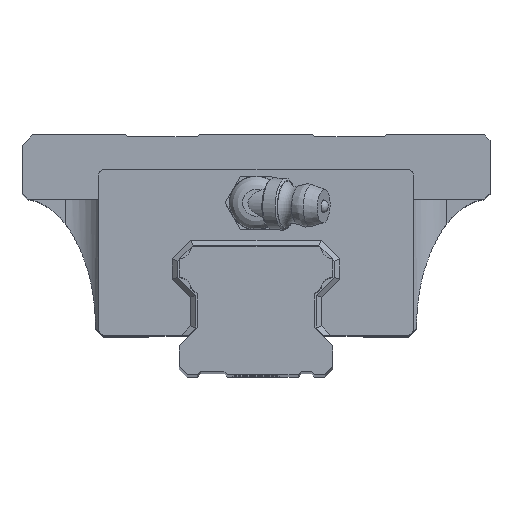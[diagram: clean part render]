
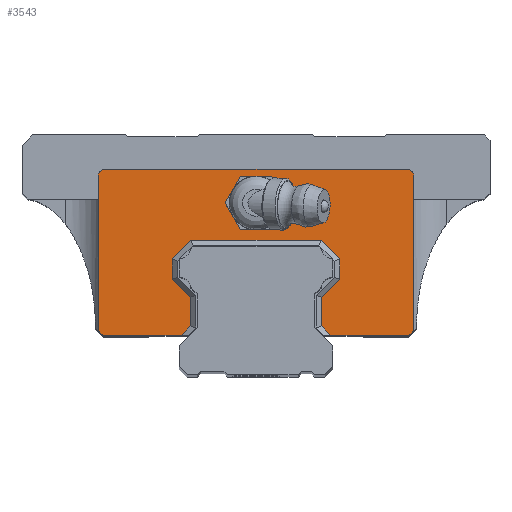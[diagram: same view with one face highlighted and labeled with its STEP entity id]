
A CAD part, top view. The second image highlights one B-rep face of the part: STEP entity #3543.
In plain terms, the highlighted planar face has unit normal (0, 0, 1).
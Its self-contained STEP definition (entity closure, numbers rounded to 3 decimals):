
#2167=CARTESIAN_POINT('',(2427.521,-4013.261,-50661.656));
#2168=VERTEX_POINT('',#2167);
#2176=CARTESIAN_POINT('',(2428.935,-4011.846,-50661.656));
#2177=VERTEX_POINT('',#2176);
#2184=CARTESIAN_POINT('',(2428.935,-4011.846,-50661.656));
#2185=DIRECTION('',(-0.707,-0.707,0.0));
#2186=VECTOR('',#2185,2.);
#2187=LINE('',#2184,#2186);
#2188=EDGE_CURVE('',#2177,#2168,#2187,.T.);
#2200=CARTESIAN_POINT('',(2428.935,-4007.595,-50661.656));
#2201=VERTEX_POINT('',#2200);
#2208=CARTESIAN_POINT('',(2428.935,-4007.595,-50661.656));
#2209=DIRECTION('',(0.,-1.0,0.0));
#2210=VECTOR('',#2209,4.251);
#2211=LINE('',#2208,#2210);
#2212=EDGE_CURVE('',#2201,#2177,#2211,.T.);
#2224=CARTESIAN_POINT('',(2426.235,-4004.895,-50661.656));
#2225=VERTEX_POINT('',#2224);
#2232=CARTESIAN_POINT('',(2426.235,-4004.895,-50661.656));
#2233=DIRECTION('',(0.707,-0.707,0.0));
#2234=VECTOR('',#2233,3.819);
#2235=LINE('',#2232,#2234);
#2236=EDGE_CURVE('',#2225,#2201,#2235,.T.);
#2248=CARTESIAN_POINT('',(2426.235,-4001.823,-50661.656));
#2249=VERTEX_POINT('',#2248);
#2256=CARTESIAN_POINT('',(2426.235,-4001.823,-50661.656));
#2257=DIRECTION('',(0.0,-1.0,0.0));
#2258=VECTOR('',#2257,3.071);
#2259=LINE('',#2256,#2258);
#2260=EDGE_CURVE('',#2249,#2225,#2259,.T.);
#2272=CARTESIAN_POINT('',(2428.998,-3999.061,-50661.656));
#2273=VERTEX_POINT('',#2272);
#2280=CARTESIAN_POINT('',(2428.998,-3999.061,-50661.656));
#2281=DIRECTION('',(-0.707,-0.707,0.0));
#2282=VECTOR('',#2281,3.907);
#2283=LINE('',#2280,#2282);
#2284=EDGE_CURVE('',#2273,#2249,#2283,.T.);
#2296=CARTESIAN_POINT('',(2448.473,-3999.061,-50661.656));
#2297=VERTEX_POINT('',#2296);
#2304=CARTESIAN_POINT('',(2448.473,-3999.061,-50661.656));
#2305=DIRECTION('',(-1.0,0.0,0.0));
#2306=VECTOR('',#2305,19.475);
#2307=LINE('',#2304,#2306);
#2308=EDGE_CURVE('',#2297,#2273,#2307,.T.);
#2320=CARTESIAN_POINT('',(2451.236,-4001.823,-50661.656));
#2321=VERTEX_POINT('',#2320);
#2328=CARTESIAN_POINT('',(2451.236,-4001.823,-50661.656));
#2329=DIRECTION('',(-0.707,0.707,0.0));
#2330=VECTOR('',#2329,3.907);
#2331=LINE('',#2328,#2330);
#2332=EDGE_CURVE('',#2321,#2297,#2331,.T.);
#2344=CARTESIAN_POINT('',(2451.236,-4004.895,-50661.656));
#2345=VERTEX_POINT('',#2344);
#2352=CARTESIAN_POINT('',(2451.236,-4004.895,-50661.656));
#2353=DIRECTION('',(0.,1.0,0.0));
#2354=VECTOR('',#2353,3.071);
#2355=LINE('',#2352,#2354);
#2356=EDGE_CURVE('',#2345,#2321,#2355,.T.);
#2368=CARTESIAN_POINT('',(2448.535,-4007.595,-50661.656));
#2369=VERTEX_POINT('',#2368);
#2376=CARTESIAN_POINT('',(2448.535,-4007.595,-50661.656));
#2377=DIRECTION('',(0.707,0.707,0.0));
#2378=VECTOR('',#2377,3.819);
#2379=LINE('',#2376,#2378);
#2380=EDGE_CURVE('',#2369,#2345,#2379,.T.);
#2392=CARTESIAN_POINT('',(2448.535,-4011.846,-50661.656));
#2393=VERTEX_POINT('',#2392);
#2400=CARTESIAN_POINT('',(2448.535,-4011.846,-50661.656));
#2401=DIRECTION('',(0.,1.0,0.0));
#2402=VECTOR('',#2401,4.251);
#2403=LINE('',#2400,#2402);
#2404=EDGE_CURVE('',#2393,#2369,#2403,.T.);
#2416=CARTESIAN_POINT('',(2449.95,-4013.261,-50661.656));
#2417=VERTEX_POINT('',#2416);
#2424=CARTESIAN_POINT('',(2449.95,-4013.261,-50661.656));
#2425=DIRECTION('',(-0.707,0.707,0.0));
#2426=VECTOR('',#2425,2.);
#2427=LINE('',#2424,#2426);
#2428=EDGE_CURVE('',#2417,#2393,#2427,.T.);
#2438=CARTESIAN_POINT('',(2415.135,-4012.261,-50661.656));
#2439=VERTEX_POINT('',#2438);
#2448=CARTESIAN_POINT('',(2415.135,-3989.461,-50661.656));
#2449=VERTEX_POINT('',#2448);
#2450=CARTESIAN_POINT('',(2415.135,-3989.461,-50661.656));
#2451=DIRECTION('',(0.0,-1.0,0.0));
#2452=VECTOR('',#2451,22.8);
#2453=LINE('',#2450,#2452);
#2454=EDGE_CURVE('',#2449,#2439,#2453,.T.);
#2487=CARTESIAN_POINT('',(2416.135,-3988.461,-50661.656));
#2488=VERTEX_POINT('',#2487);
#2489=CARTESIAN_POINT('',(2416.135,-3989.461,-50661.656));
#2490=DIRECTION('',(0.0,0.0,1.0));
#2491=DIRECTION('',(1.0,0.0,0.0));
#2492=AXIS2_PLACEMENT_3D('',#2489,#2490,#2491);
#2493=CIRCLE('',#2492,1.);
#2494=EDGE_CURVE('',#2488,#2449,#2493,.T.);
#2520=CARTESIAN_POINT('',(2461.335,-3988.461,-50661.656));
#2521=VERTEX_POINT('',#2520);
#2522=CARTESIAN_POINT('',(2461.335,-3988.461,-50661.656));
#2523=DIRECTION('',(-1.0,0.0,0.0));
#2524=VECTOR('',#2523,45.2);
#2525=LINE('',#2522,#2524);
#2526=EDGE_CURVE('',#2521,#2488,#2525,.T.);
#2551=CARTESIAN_POINT('',(2462.335,-3989.461,-50661.656));
#2552=VERTEX_POINT('',#2551);
#2553=CARTESIAN_POINT('',(2461.335,-3989.461,-50661.656));
#2554=DIRECTION('',(0.0,0.0,1.0));
#2555=DIRECTION('',(1.0,0.0,0.0));
#2556=AXIS2_PLACEMENT_3D('',#2553,#2554,#2555);
#2557=CIRCLE('',#2556,1.);
#2558=EDGE_CURVE('',#2552,#2521,#2557,.T.);
#2584=CARTESIAN_POINT('',(2462.335,-4012.261,-50661.656));
#2585=VERTEX_POINT('',#2584);
#2586=CARTESIAN_POINT('',(2462.335,-4012.261,-50661.656));
#2587=DIRECTION('',(0.0,1.0,0.0));
#2588=VECTOR('',#2587,22.8);
#2589=LINE('',#2586,#2588);
#2590=EDGE_CURVE('',#2585,#2552,#2589,.T.);
#2623=CARTESIAN_POINT('',(2461.335,-4013.261,-50661.656));
#2624=VERTEX_POINT('',#2623);
#2625=CARTESIAN_POINT('',(2461.335,-4012.261,-50661.656));
#2626=DIRECTION('',(0.0,0.0,1.0));
#2627=DIRECTION('',(1.0,0.0,0.0));
#2628=AXIS2_PLACEMENT_3D('',#2625,#2626,#2627);
#2629=CIRCLE('',#2628,1.);
#2630=EDGE_CURVE('',#2624,#2585,#2629,.T.);
#2779=CARTESIAN_POINT('',(2449.95,-4013.261,-50661.656));
#2780=DIRECTION('',(1.0,0.0,0.0));
#2781=VECTOR('',#2780,11.386);
#2782=LINE('',#2779,#2781);
#2783=EDGE_CURVE('',#2417,#2624,#2782,.T.);
#3310=CARTESIAN_POINT('',(2416.135,-4013.261,-50661.656));
#3311=VERTEX_POINT('',#3310);
#3312=CARTESIAN_POINT('',(2416.135,-4013.261,-50661.656));
#3313=DIRECTION('',(1.0,0.0,0.0));
#3314=VECTOR('',#3313,11.386);
#3315=LINE('',#3312,#3314);
#3316=EDGE_CURVE('',#3311,#2168,#3315,.T.);
#3430=CARTESIAN_POINT('',(2416.135,-4012.261,-50661.656));
#3431=DIRECTION('',(0.0,0.0,1.0));
#3432=DIRECTION('',(1.0,0.0,0.0));
#3433=AXIS2_PLACEMENT_3D('',#3430,#3431,#3432);
#3434=CIRCLE('',#3433,1.);
#3435=EDGE_CURVE('',#2439,#3311,#3434,.T.);
#3466=CARTESIAN_POINT('',(2416.135,-4012.261,-50661.656));
#3467=DIRECTION('',(0.0,0.0,1.0));
#3468=DIRECTION('',(1.0,0.0,0.0));
#3469=AXIS2_PLACEMENT_3D('',#3466,#3467,#3468);
#3470=PLANE('',#3469);
#3471=ORIENTED_EDGE('',*,*,#2404,.F.);
#3472=ORIENTED_EDGE('',*,*,#2428,.F.);
#3473=ORIENTED_EDGE('',*,*,#2783,.T.);
#3474=ORIENTED_EDGE('',*,*,#2630,.T.);
#3475=ORIENTED_EDGE('',*,*,#2590,.T.);
#3476=ORIENTED_EDGE('',*,*,#2558,.T.);
#3477=ORIENTED_EDGE('',*,*,#2526,.T.);
#3478=ORIENTED_EDGE('',*,*,#2494,.T.);
#3479=ORIENTED_EDGE('',*,*,#2454,.T.);
#3480=ORIENTED_EDGE('',*,*,#3435,.T.);
#3481=ORIENTED_EDGE('',*,*,#3316,.T.);
#3482=ORIENTED_EDGE('',*,*,#2188,.F.);
#3483=ORIENTED_EDGE('',*,*,#2212,.F.);
#3484=ORIENTED_EDGE('',*,*,#2236,.F.);
#3485=ORIENTED_EDGE('',*,*,#2260,.F.);
#3486=ORIENTED_EDGE('',*,*,#2284,.F.);
#3487=ORIENTED_EDGE('',*,*,#2308,.F.);
#3488=ORIENTED_EDGE('',*,*,#2332,.F.);
#3489=ORIENTED_EDGE('',*,*,#2356,.F.);
#3490=ORIENTED_EDGE('',*,*,#2380,.F.);
#3491=EDGE_LOOP('',(#3471,#3472,#3473,#3474,#3475,#3476,#3477,#3478,#3479,#3480,#3481,#3482,#3483,#3484,#3485,#3486,#3487,#3488,#3489,#3490));
#3492=FACE_OUTER_BOUND('',#3491,.T.);
#3493=CARTESIAN_POINT('',(2436.426,-3989.461,-50661.656));
#3494=VERTEX_POINT('',#3493);
#3495=CARTESIAN_POINT('',(2441.045,-3989.461,-50661.656));
#3496=VERTEX_POINT('',#3495);
#3497=CARTESIAN_POINT('',(2436.426,-3989.461,-50661.656));
#3498=DIRECTION('',(1.0,0.,0.0));
#3499=VECTOR('',#3498,4.619);
#3500=LINE('',#3497,#3499);
#3501=EDGE_CURVE('',#3494,#3496,#3500,.T.);
#3502=ORIENTED_EDGE('',*,*,#3501,.T.);
#3503=CARTESIAN_POINT('',(2443.354,-3993.461,-50661.656));
#3504=VERTEX_POINT('',#3503);
#3505=CARTESIAN_POINT('',(2441.045,-3989.461,-50661.656));
#3506=DIRECTION('',(0.5,-0.866,0.0));
#3507=VECTOR('',#3506,4.619);
#3508=LINE('',#3505,#3507);
#3509=EDGE_CURVE('',#3496,#3504,#3508,.T.);
#3510=ORIENTED_EDGE('',*,*,#3509,.T.);
#3511=CARTESIAN_POINT('',(2441.045,-3997.461,-50661.656));
#3512=VERTEX_POINT('',#3511);
#3513=CARTESIAN_POINT('',(2443.354,-3993.461,-50661.656));
#3514=DIRECTION('',(-0.5,-0.866,0.0));
#3515=VECTOR('',#3514,4.619);
#3516=LINE('',#3513,#3515);
#3517=EDGE_CURVE('',#3504,#3512,#3516,.T.);
#3518=ORIENTED_EDGE('',*,*,#3517,.T.);
#3519=CARTESIAN_POINT('',(2436.426,-3997.461,-50661.656));
#3520=VERTEX_POINT('',#3519);
#3521=CARTESIAN_POINT('',(2441.045,-3997.461,-50661.656));
#3522=DIRECTION('',(-1.0,0.0,0.0));
#3523=VECTOR('',#3522,4.619);
#3524=LINE('',#3521,#3523);
#3525=EDGE_CURVE('',#3512,#3520,#3524,.T.);
#3526=ORIENTED_EDGE('',*,*,#3525,.T.);
#3527=CARTESIAN_POINT('',(2434.117,-3993.461,-50661.656));
#3528=VERTEX_POINT('',#3527);
#3529=CARTESIAN_POINT('',(2436.426,-3997.461,-50661.656));
#3530=DIRECTION('',(-0.5,0.866,0.0));
#3531=VECTOR('',#3530,4.619);
#3532=LINE('',#3529,#3531);
#3533=EDGE_CURVE('',#3520,#3528,#3532,.T.);
#3534=ORIENTED_EDGE('',*,*,#3533,.T.);
#3535=CARTESIAN_POINT('',(2434.117,-3993.461,-50661.656));
#3536=DIRECTION('',(0.5,0.866,0.0));
#3537=VECTOR('',#3536,4.619);
#3538=LINE('',#3535,#3537);
#3539=EDGE_CURVE('',#3528,#3494,#3538,.T.);
#3540=ORIENTED_EDGE('',*,*,#3539,.T.);
#3541=EDGE_LOOP('',(#3502,#3510,#3518,#3526,#3534,#3540));
#3542=FACE_BOUND('',#3541,.T.);
#3543=ADVANCED_FACE('',(#3492,#3542),#3470,.T.);
